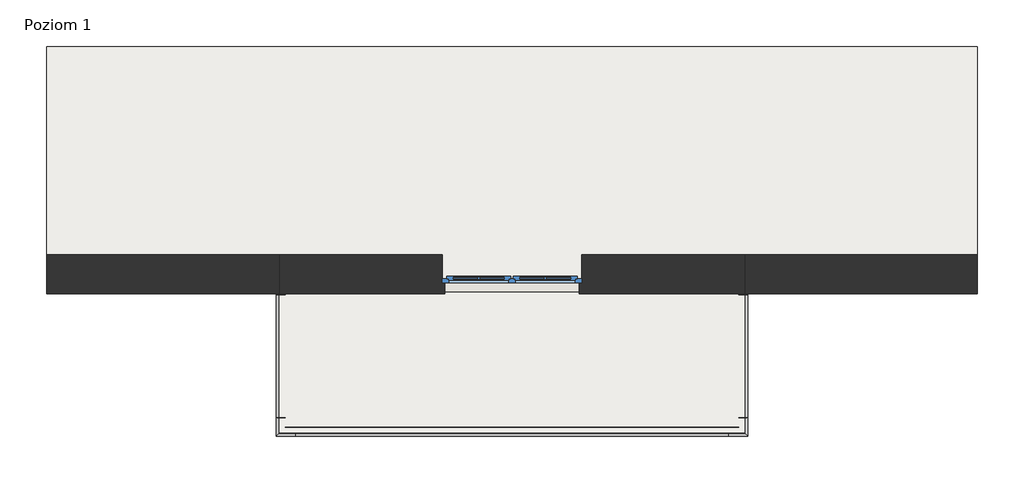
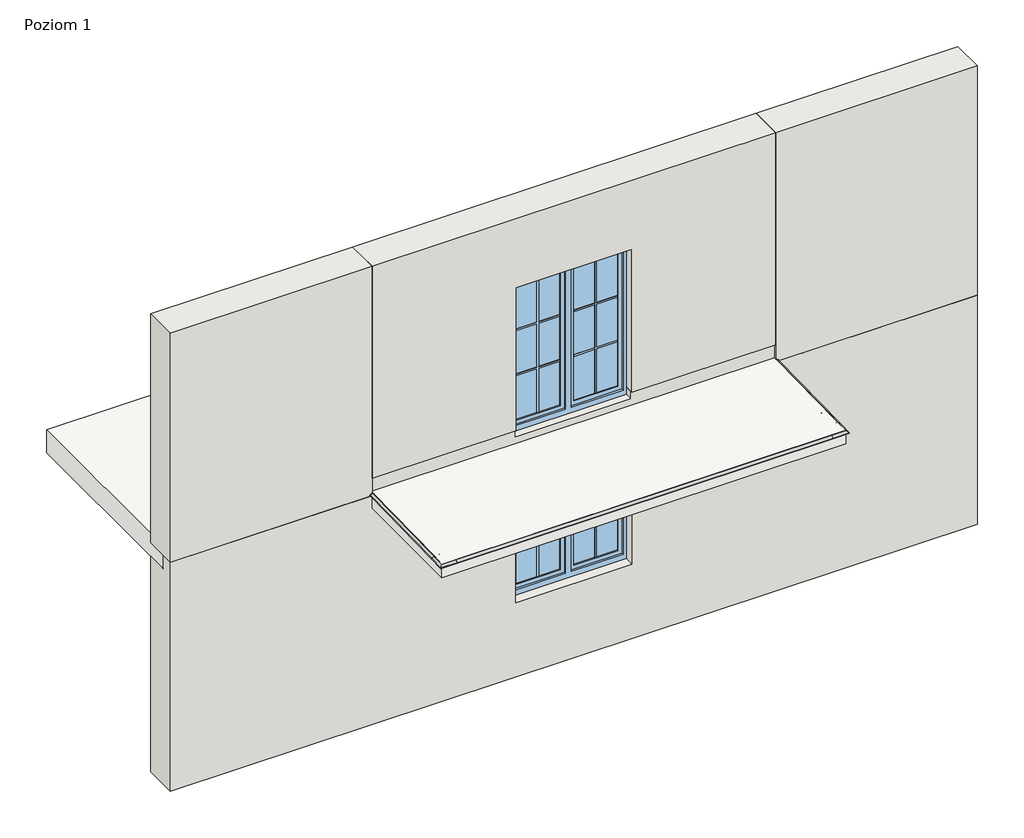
# One storey, part 1 of 4: 5 proxies, 5 walls, 2 slabs, 2 windows.
"""IFC4 building model written with IfcOpenShell, lengths in millimetres."""

from ifc_helpers import new_model, si_unit, origin, place, context, project, spatial, faceted_brep, transform, mapped, element, save
from components import generic_models_74c3f778, generic_models_a489ce9a, k100_529ed3ec, k100_88bf2ae9, k100_058bcfcb, window_150x150_51b7f79a, window_150x200_12b14935

model = new_model("IFC4")

# Units and contexts
model_context = context("Model", 3, world=origin())
ifc_project = project(units=[si_unit("LENGTHUNIT", "METRE", prefix="MILLI")], contexts=[model_context])

# Site, building, storey
site = spatial("IfcSite", under=ifc_project)
building = spatial("IfcBuilding", under=site)
storey = spatial("IfcBuildingStorey", under=building, Name="Poziom 1", Elevation=0.0)

# Proxies
placement = place(None, origin())
generic_models_shape = generic_models_74c3f778(model_context)
element("IfcBuildingElementProxy", 1, Name="Odbojnik przyścienny K100 : Odbojnik przyścienny K100", ObjectType="Odbojnik przyścienny K100 : Odbojnik przyścienny K100", at=placement, inside=storey, context=model_context, shape_type="MappedRepresentation", body=[
    mapped(generic_models_shape, transform((-113130.3808604, 47029.7529777, -113.8887003), x_axis=(0.0, 0.9998020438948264, 0.019896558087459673), y_axis=(-1.0, 0.0, 0.0), z_axis=(0.0, -0.01989655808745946, 0.9998020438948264))),
])
generic_models_2_shape = generic_models_a489ce9a(model_context)
element("IfcBuildingElementProxy", 2, Name="Odbojnik przyścienny K100 : Odbojnik przyścienny K100", ObjectType="Odbojnik przyścienny K100 : Odbojnik przyścienny K100", at=placement, inside=storey, context=model_context, shape_type="MappedRepresentation", body=[
    mapped(generic_models_2_shape, transform((-108130.8808604, 47029.7529777, -113.8887003), x_axis=(0.0, 0.9998020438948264, 0.019896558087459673), y_axis=(-1.0, 0.0, 0.0), z_axis=(0.0, -0.01989655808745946, 0.9998020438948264))),
])
k100_shape = k100_529ed3ec(model_context)
element("IfcBuildingElementProxy", 3, Name="K100 Profil okapowy prosty : K100", ObjectType="K100 Profil okapowy prosty : K100", at=placement, inside=storey, context=model_context, shape_type="MappedRepresentation", body=[
    mapped(k100_shape, transform((-113130.6308604, 45539.6599308, -114.0), x_axis=(1.0, 0.0, 0.0), y_axis=(0.0, 0.9998020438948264, 0.01989655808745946), z_axis=(0.0, -0.01989655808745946, 0.9998020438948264))),
])
k100_2_shape = k100_88bf2ae9(model_context)
element("IfcBuildingElementProxy", 4, Name="K100 Profil okapowy prosty : K100", ObjectType="K100 Profil okapowy prosty : K100", at=placement, inside=storey, context=model_context, shape_type="MappedRepresentation", body=[
    mapped(k100_2_shape, transform((-113130.6308604, 47029.1653041, -84.358102), x_axis=(0.0, -0.9998020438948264, -0.019896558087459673), y_axis=(1.0, 0.0, 0.0), z_axis=(0.0, -0.01989655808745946, 0.9998020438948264))),
])
k100_3_shape = k100_058bcfcb(model_context)
element("IfcBuildingElementProxy", 5, Name="K100 Profil okapowy prosty : K100", ObjectType="K100 Profil okapowy prosty : K100", at=placement, inside=storey, context=model_context, shape_type="MappedRepresentation", body=[
    mapped(k100_3_shape, transform((-108130.6308604, 47029.1653041, -84.358102), x_axis=(0.0, -0.9998020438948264, -0.019896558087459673), y_axis=(1.0, 0.0, 0.0), z_axis=(0.0, -0.01989655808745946, 0.9998020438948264))),
])

# Slabs
element("IfcSlab", 6, ObjectType="Balkon - posadzka ceramiczna", at=placement, inside=storey, context=model_context, shape_type="Brep", body=[
    faceted_brep([(-113130.6308604, 45539.6599308, -290.0), (-113130.6308604, 47039.6599308, -290.0), (-113130.6308604, 47147.6599308, -290.0), (-108130.6308604, 47147.6599308, -290.0), (-108130.6308604, 47039.6599308, -290.0), (-108130.6308604, 45539.6599308, -290.0), (-113130.6308604, 45539.6599308, -114.0), (-113130.6308604, 47061.6599308, -83.7114428), (-113130.6308604, 47147.6599308, -82.0), (-113130.6308604, 47147.6599308, -125.0), (-108130.6308604, 47147.6599308, -82.0), (-108130.6308604, 47147.6599308, -125.0), (-108130.6308604, 45539.6599308, -114.0), (-108130.6308604, 47061.6599308, -83.7114428)], [[[0, 1, 2, 3, 4, 5]], [[2, 1, 0, 6, 7, 8, 9]], [[3, 2, 9, 8, 10, 11]], [[0, 5, 12, 6]], [[5, 4, 3, 11, 10, 13, 12]], [[12, 13, 10, 8, 7, 6]]]),
])
element("IfcSlab", 7, ObjectType="Strop", at=placement, inside=storey, context=model_context, shape_type="Brep", body=[
    faceted_brep([(-105630.6308604, 47194.6599308, -300.0), (-115630.6308604, 47194.6599308, -300.0), (-115630.6308604, 47459.6599308, -300.0), (-115630.6308604, 49694.6599308, -300.0), (-105630.6308604, 49694.6599308, -300.0), (-105630.6308604, 47459.6599308, -300.0), (-105630.6308604, 47194.6599308, 0.0), (-105630.6308604, 49694.6599308, 0.0), (-115630.6308604, 49694.6599308, 0.0), (-115630.6308604, 47194.6599308, 0.0), (-113130.6308604, 47194.6599308, 0.0), (-111380.6308604, 47194.6599308, 0.0), (-109880.6308604, 47194.6599308, 0.0), (-108130.6308604, 47194.6599308, 0.0), (-105630.6308604, 47194.6599308, -125.0), (-115630.6308604, 47194.6599308, -125.0)], [[[0, 1, 2, 3, 4, 5]], [[6, 7, 8, 9, 10, 11, 12, 13]], [[1, 0, 14, 6, 13, 12, 11, 10, 9, 15]], [[3, 2, 1, 15, 9, 8]], [[4, 3, 8, 7]], [[0, 5, 4, 7, 6, 14]]]),
])

# Walls
element("IfcWall", 8, ObjectType="Porotherm P+W 25 + o15 + t", at=placement, inside=storey, context=model_context, shape_type="Brep", body=[
    faceted_brep([(-115630.6308604, 47039.6599308, -3125.0), (-105630.6308604, 47039.6599308, -3125.0), (-105630.6308604, 47039.6599308, -125.0), (-108130.6308604, 47039.6599308, -125.0), (-108130.6308604, 47039.6599308, -290.0), (-113130.6308604, 47039.6599308, -290.0), (-113130.6308604, 47039.6599308, -125.0), (-115630.6308604, 47039.6599308, -125.0), (-109910.6308604, 47039.6599308, -680.0), (-109910.6308604, 47039.6599308, -2150.0), (-111350.6308604, 47039.6599308, -2150.0), (-111350.6308604, 47039.6599308, -680.0), (-105630.6308604, 47459.6599308, -3125.0), (-115630.6308604, 47459.6599308, -3125.0), (-115630.6308604, 47459.6599308, -300.0), (-105630.6308604, 47459.6599308, -300.0), (-109880.6308604, 47459.6599308, -2150.0), (-109880.6308604, 47459.6599308, -650.0), (-111380.6308604, 47459.6599308, -650.0), (-111380.6308604, 47459.6599308, -2150.0), (-105630.6308604, 47194.6599308, -300.0), (-105630.6308604, 47194.6599308, -125.0), (-108130.6308604, 47194.6599308, -125.0), (-113130.6308604, 47194.6599308, -125.0), (-115630.6308604, 47194.6599308, -125.0), (-113130.6308604, 47147.6599308, -125.0), (-108130.6308604, 47147.6599308, -125.0), (-115630.6308604, 47194.6599308, -300.0), (-109880.6308604, 47159.6599308, -650.0), (-109880.6308604, 47159.6599308, -2150.0), (-109910.6308604, 47159.6599308, -680.0), (-109910.6308604, 47159.6599308, -2150.0), (-108130.6308604, 47147.6599308, -290.0), (-113130.6308604, 47147.6599308, -290.0), (-111380.6308604, 47159.6599308, -650.0), (-111380.6308604, 47159.6599308, -2150.0), (-111350.6308604, 47159.6599308, -2150.0), (-111350.6308604, 47159.6599308, -680.0)], [[[0, 1, 2, 3, 4, 5, 6, 7], [8, 9, 10, 11]], [[12, 13, 14, 15], [16, 17, 18, 19]], [[1, 0, 13, 12]], [[2, 1, 12, 15, 20, 21]], [[2, 21, 22, 23, 24, 7, 6, 25, 26, 3]], [[0, 7, 24, 27, 14, 13]], [[28, 17, 16, 29]], [[8, 30, 31, 9]], [[27, 20, 15, 14]], [[20, 27, 24, 23, 22, 21]], [[32, 33, 5, 4]], [[5, 33, 25, 6]], [[33, 32, 26, 25]], [[32, 4, 3, 26]], [[17, 28, 34, 18]], [[29, 16, 19, 35, 36, 10, 9, 31]], [[34, 28, 29, 31, 30, 37, 36, 35]], [[34, 35, 19, 18]], [[30, 8, 11, 37]], [[10, 36, 37, 11]]]),
])
element("IfcWall", 9, ObjectType="Porotherm P+W 25 + o15 + t", at=placement, inside=storey, context=model_context, shape_type="Brep", body=[
    faceted_brep([(-115630.6308604, 47039.6599308, -125.0), (-113130.6308604, 47039.6599308, -125.0), (-113130.6308604, 47039.6599308, 100.0), (-113130.6308604, 47039.6599308, 2875.0), (-115630.6308604, 47039.6599308, 2875.0), (-115630.6308604, 47459.6599308, -125.0), (-115630.6308604, 47459.6599308, 2875.0), (-113130.6308604, 47459.6599308, 2875.0), (-113130.6308604, 47459.6599308, 100.0), (-113130.6308604, 47459.6599308, 0.0), (-113130.6308604, 47459.6599308, -125.0), (-115630.6308604, 47194.6599308, -125.0), (-113130.6308604, 47194.6599308, -125.0), (-113130.6308604, 47147.6599308, -125.0)], [[[0, 1, 2, 3, 4]], [[5, 6, 7, 8, 9, 10]], [[1, 0, 11, 5, 10, 12, 13]], [[4, 3, 7, 6]], [[0, 4, 6, 5, 11]], [[1, 13, 12, 10, 9, 8, 7, 3, 2]]]),
])
element("IfcWall", 10, ObjectType="Porotherm P+W 25 + o15 + t", at=placement, inside=storey, context=model_context, shape_type="Brep", body=[
    faceted_brep([(-108130.6308604, 47039.6599308, 2875.0), (-108130.6308604, 47039.6599308, 100.0), (-108130.6308604, 47039.6599308, -125.0), (-105630.6308604, 47039.6599308, -125.0), (-105630.6308604, 47039.6599308, 2875.0), (-108130.6308604, 47459.6599308, -125.0), (-108130.6308604, 47459.6599308, 0.0), (-108130.6308604, 47459.6599308, 100.0), (-108130.6308604, 47459.6599308, 2875.0), (-105630.6308604, 47459.6599308, 2875.0), (-105630.6308604, 47459.6599308, -125.0), (-108130.6308604, 47147.6599308, -125.0), (-108130.6308604, 47194.6599308, -125.0), (-105630.6308604, 47194.6599308, -125.0)], [[[0, 1, 2, 3, 4]], [[5, 6, 7, 8, 9, 10]], [[3, 2, 11, 12, 5, 10, 13]], [[4, 3, 13, 10, 9]], [[0, 4, 9, 8]], [[0, 8, 7, 6, 5, 12, 11, 2, 1]]]),
])
element("IfcWall", 11, ObjectType="Porotherm P+W 25 + o12 + pł ceramiczne", at=placement, inside=storey, context=model_context, shape_type="Brep", body=[
    faceted_brep([(-108130.6308604, 47061.6599308, 100.0), (-109910.6308604, 47061.6599308, 100.0), (-109910.6308604, 47061.6599308, 0.0), (-111350.6308604, 47061.6599308, 0.0), (-111350.6308604, 47061.6599308, 100.0), (-113130.6308604, 47061.6599308, 100.0), (-113130.6308604, 47061.6599308, -83.7114428), (-108130.6308604, 47061.6599308, -83.7114428), (-113130.6308604, 47459.6599308, 0.0), (-113130.6308604, 47459.6599308, 100.0), (-111380.6308604, 47459.6599308, 100.0), (-111380.6308604, 47459.6599308, 0.0), (-108130.6308604, 47459.6599308, 100.0), (-108130.6308604, 47459.6599308, 0.0), (-109880.6308604, 47459.6599308, 0.0), (-109880.6308604, 47459.6599308, 100.0), (-113130.6308604, 47194.6599308, -125.0), (-108130.6308604, 47194.6599308, -125.0), (-108130.6308604, 47147.6599308, -125.0), (-113130.6308604, 47147.6599308, -125.0), (-108130.6308604, 47147.6599308, -82.0), (-108130.6308604, 47194.6599308, 0.0), (-109880.6308604, 47159.6599308, 100.0), (-109910.6308604, 47159.6599308, 100.0), (-111350.6308604, 47159.6599308, 100.0), (-111380.6308604, 47159.6599308, 100.0), (-113130.6308604, 47194.6599308, 0.0), (-113130.6308604, 47147.6599308, -82.0), (-111380.6308604, 47194.6599308, 0.0), (-109880.6308604, 47194.6599308, 0.0), (-111380.6308604, 47159.6599308, 0.0), (-111350.6308604, 47159.6599308, 0.0), (-109910.6308604, 47159.6599308, 0.0), (-109880.6308604, 47159.6599308, 0.0)], [[[0, 1, 2, 3, 4, 5, 6, 7]], [[8, 9, 10, 11]], [[12, 13, 14, 15]], [[16, 17, 18, 19]], [[12, 0, 7, 20, 18, 17, 21, 13]], [[0, 12, 15, 22, 23, 1]], [[9, 5, 4, 24, 25, 10]], [[5, 9, 8, 26, 16, 19, 27, 6]], [[8, 11, 28, 26]], [[13, 21, 29, 14]], [[17, 16, 26, 28, 29, 21]], [[20, 27, 19, 18]], [[27, 20, 7, 6]], [[30, 31, 3, 2, 32, 33, 29, 28]], [[31, 30, 25, 24]], [[33, 32, 23, 22]], [[33, 22, 15, 14, 29]], [[25, 30, 28, 11, 10]], [[32, 2, 1, 23]], [[3, 31, 24, 4]]]),
])
element("IfcWall", 12, ObjectType="Porotherm P+W 25 + o15 + t", at=placement, inside=storey, context=model_context, shape_type="Brep", body=[
    faceted_brep([(-108130.6308604, 47039.6599308, 100.0), (-108130.6308604, 47039.6599308, 2875.0), (-113130.6308604, 47039.6599308, 2875.0), (-113130.6308604, 47039.6599308, 100.0), (-111350.6308604, 47039.6599308, 100.0), (-111350.6308604, 47039.6599308, 1970.0), (-109910.6308604, 47039.6599308, 1970.0), (-109910.6308604, 47039.6599308, 100.0), (-108130.6308604, 47459.6599308, 2875.0), (-108130.6308604, 47459.6599308, 100.0), (-109880.6308604, 47459.6599308, 100.0), (-109880.6308604, 47459.6599308, 2000.0), (-111380.6308604, 47459.6599308, 2000.0), (-111380.6308604, 47459.6599308, 100.0), (-113130.6308604, 47459.6599308, 100.0), (-113130.6308604, 47459.6599308, 2875.0), (-113130.6308604, 47061.6599308, 100.0), (-111380.6308604, 47159.6599308, 100.0), (-111350.6308604, 47159.6599308, 100.0), (-111350.6308604, 47061.6599308, 100.0), (-108130.6308604, 47061.6599308, 100.0), (-109910.6308604, 47061.6599308, 100.0), (-109910.6308604, 47159.6599308, 100.0), (-109880.6308604, 47159.6599308, 100.0), (-109880.6308604, 47159.6599308, 2000.0), (-109910.6308604, 47159.6599308, 1970.0), (-111380.6308604, 47159.6599308, 2000.0), (-111350.6308604, 47159.6599308, 1970.0)], [[[0, 1, 2, 3, 4, 5, 6, 7]], [[8, 9, 10, 11, 12, 13, 14, 15]], [[3, 16, 14, 13, 17, 18, 19, 4]], [[9, 20, 0, 7, 21, 22, 23, 10]], [[1, 0, 20, 9, 8]], [[2, 1, 8, 15]], [[3, 2, 15, 14, 16]], [[24, 11, 10, 23]], [[6, 25, 22, 21, 7]], [[26, 12, 11, 24]], [[26, 24, 23, 22, 25, 27, 18, 17]], [[12, 26, 17, 13]], [[27, 25, 6, 5]], [[27, 5, 4, 19, 18]]]),
])

# Windows
window_150x150_shape = window_150x150_51b7f79a(model_context)
element("IfcWindow", 13, ObjectType="OKNO_2X_W_SZ : 150x150", at=placement, inside=storey, context=model_context, shape_type="MappedRepresentation", body=[
    mapped(window_150x150_shape, transform((-110630.6308604, 47249.6599308, -3000.0), x_axis=(-1.0, 0.0, 0.0), y_axis=(0.0, -1.0, 0.0), z_axis=(0.0, 0.0, 1.0))),
])
window_150x200_shape = window_150x200_12b14935(model_context)
element("IfcWindow", 14, ObjectType="OKNO_2X_W_SZ : 150x200", at=placement, inside=storey, context=model_context, shape_type="MappedRepresentation", body=[
    mapped(window_150x200_shape, transform((-110630.6308604, 47249.6599308, -850.0), x_axis=(-1.0, 0.0, 0.0), y_axis=(0.0, -1.0, 0.0), z_axis=(0.0, 0.0, 1.0))),
])

save(model, "model.ifc")
